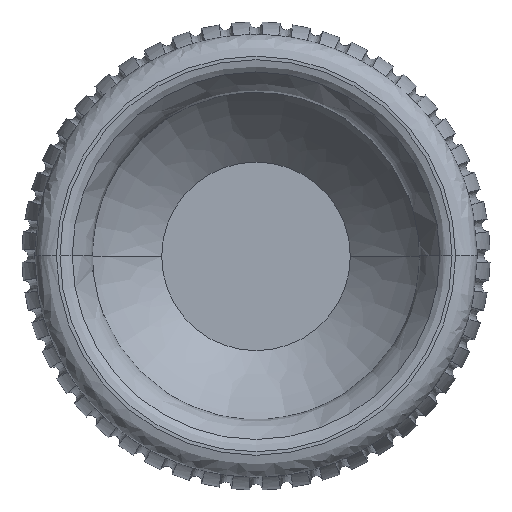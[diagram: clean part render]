
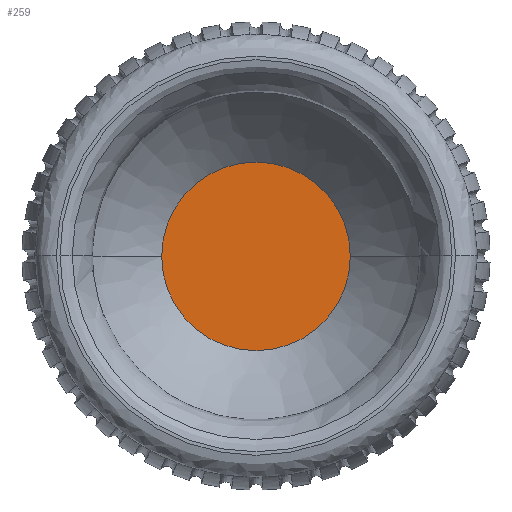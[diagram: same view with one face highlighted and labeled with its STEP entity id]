
A CAD part, top view. The second image highlights one B-rep face of the part: STEP entity #259.
In plain terms, the highlighted planar face has unit normal (0, 0, 1).
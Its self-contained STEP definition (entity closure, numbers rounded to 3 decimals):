
#259=ADVANCED_FACE('',(#464),#3077,.T.);
#464=FACE_OUTER_BOUND('',#693,.T.);
#693=EDGE_LOOP('',(#1494,#1495));
#1494=ORIENTED_EDGE('',*,*,#2082,.T.);
#1495=ORIENTED_EDGE('',*,*,#2100,.T.);
#2082=EDGE_CURVE('',#3063,#3073,#2550,.T.);
#2100=EDGE_CURVE('',#3073,#3063,#2560,.T.);
#2550=TRIMMED_CURVE($,#2758,(#30352),(#30353),.T.,.CARTESIAN.);
#2560=TRIMMED_CURVE($,#2768,(#30563),(#30564),.T.,.CARTESIAN.);
#2758=CIRCLE('',#3566,66.222);
#2768=CIRCLE('',#3576,66.222);
#3063=VERTEX_POINT('',#19475);
#3073=VERTEX_POINT('',#19485);
#3077=PLANE('',#3370);
#3370=AXIS2_PLACEMENT_3D('',#18707,#3584,$);
#3566=AXIS2_PLACEMENT_3D($,#30351,#3975,#3976);
#3576=AXIS2_PLACEMENT_3D($,#30562,#3995,#3996);
#3584=DIRECTION('',(0.,0.,1.));
#3975=DIRECTION('',(0.,0.,1.));
#3976=DIRECTION('',(-1.,0.,0.));
#3995=DIRECTION('',(0.,0.,1.));
#3996=DIRECTION('',(1.,0.,0.));
#18707=CARTESIAN_POINT('',(-586.459,-67.547,23.497));
#19475=CARTESIAN_POINT('',(-585.135,0.,23.497));
#19485=CARTESIAN_POINT('',(-452.691,0.,23.497));
#30351=CARTESIAN_POINT('',(-518.913,0.,23.497));
#30352=CARTESIAN_POINT('',(-585.135,0.,23.497));
#30353=CARTESIAN_POINT('',(-452.691,0.,23.497));
#30562=CARTESIAN_POINT('',(-518.913,0.,23.497));
#30563=CARTESIAN_POINT('',(-452.691,0.,23.497));
#30564=CARTESIAN_POINT('',(-585.135,0.,23.497));
